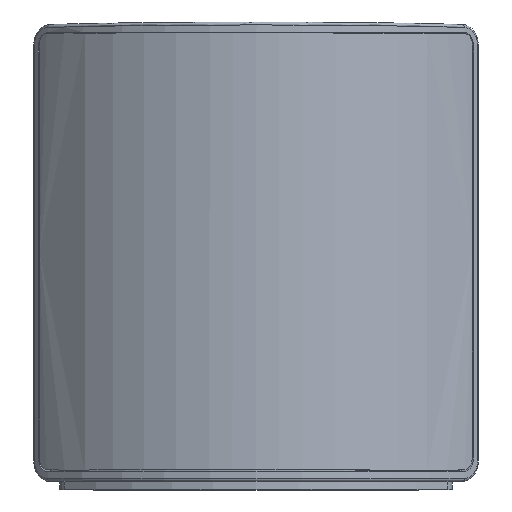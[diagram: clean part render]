
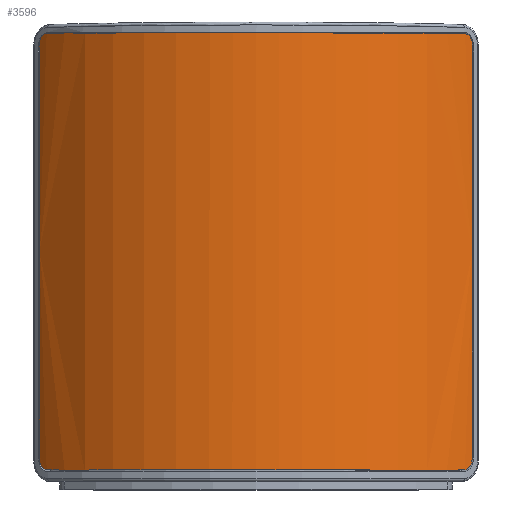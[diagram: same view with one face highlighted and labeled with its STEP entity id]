
A CAD part, top view. The second image highlights one B-rep face of the part: STEP entity #3596.
In plain terms, the highlighted cylindrical face has radius 48.3 mm (diameter 96.6 mm), a partial arc.
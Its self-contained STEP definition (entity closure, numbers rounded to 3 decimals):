
#1750=B_SPLINE_CURVE_WITH_KNOTS('',3,(#49874,#49875,#49876,#49877,#49878,
#49879,#49880,#49881,#49882,#49883,#49884,#49885,#49886,#49887,#49888,#49889,
#49890,#49891,#49892,#49893,#49894,#49895),.UNSPECIFIED.,.F.,.F.,(4,2,2,
2,2,2,2,2,2,2,4),(0.,0.25,0.375,0.438,
0.453,0.469,0.484,0.5,
0.625,0.75,1.),.UNSPECIFIED.);
#1751=B_SPLINE_CURVE_WITH_KNOTS('',3,(#49898,#49899,#49900,#49901,#49902,
#49903,#49904,#49905,#49906,#49907,#49908,#49909,#49910,#49911,#49912,#49913,
#49914,#49915,#49916,#49917,#49918,#49919),.UNSPECIFIED.,.F.,.F.,(4,2,2,
2,2,2,2,2,2,2,4),(0.,0.25,0.375,0.437,0.453,
0.469,0.484,0.5,0.625,
0.75,1.),.UNSPECIFIED.);
#1752=B_SPLINE_CURVE_WITH_KNOTS('',3,(#49921,#49922,#49923,#49924,#49925,
#49926,#49927,#49928,#49929,#49930,#49931,#49932,#49933,#49934,#49935,#49936,
#49937,#49938,#49939,#49940,#49941,#49942),.UNSPECIFIED.,.F.,.F.,(4,2,2,
2,2,2,2,2,2,2,4),(0.,0.25,0.375,0.438,0.453,0.469,0.484,
0.5,0.625,0.75,1.),.UNSPECIFIED.);
#1753=B_SPLINE_CURVE_WITH_KNOTS('',3,(#49944,#49945,#49946,#49947,#49948,
#49949,#49950,#49951,#49952,#49953,#49954,#49955,#49956,#49957,#49958,#49959,
#49960,#49961,#49962,#49963,#49964,#49965),.UNSPECIFIED.,.F.,.F.,(4,2,2,
2,2,2,2,2,2,2,4),(0.,0.25,0.375,0.438,
0.453,0.469,0.484,0.5,
0.625,0.75,1.),.UNSPECIFIED.);
#2111=CYLINDRICAL_SURFACE('',#16534,48.3);
#3596=ADVANCED_FACE('',(#4615),#2111,.T.);
#4615=FACE_OUTER_BOUND('',#5509,.T.);
#5509=EDGE_LOOP('',(#9516,#9517,#9518,#9519));
#9516=ORIENTED_EDGE('',*,*,#14182,.T.);
#9517=ORIENTED_EDGE('',*,*,#14183,.F.);
#9518=ORIENTED_EDGE('',*,*,#14184,.T.);
#9519=ORIENTED_EDGE('',*,*,#14185,.F.);
#11954=VERTEX_POINT('',#49896);
#11955=VERTEX_POINT('',#49897);
#11956=VERTEX_POINT('',#49920);
#11957=VERTEX_POINT('',#49943);
#14182=EDGE_CURVE('',#11954,#11955,#1750,.T.);
#14183=EDGE_CURVE('',#11956,#11955,#1751,.T.);
#14184=EDGE_CURVE('',#11956,#11957,#1752,.T.);
#14185=EDGE_CURVE('',#11954,#11957,#1753,.T.);
#16534=AXIS2_PLACEMENT_3D('',#49966,#18488,#18489);
#18488=DIRECTION('',(0.,-1.,0.));
#18489=DIRECTION('',(1.,0.,0.));
#49874=CARTESIAN_POINT('',(-36.457,-8.937,5.419));
#49875=CARTESIAN_POINT('',(-36.453,-15.385,5.424));
#49876=CARTESIAN_POINT('',(-36.453,-21.833,5.423));
#49877=CARTESIAN_POINT('',(-36.452,-31.506,5.425));
#49878=CARTESIAN_POINT('',(-36.452,-34.73,5.424));
#49879=CARTESIAN_POINT('',(-36.45,-39.566,5.428));
#49880=CARTESIAN_POINT('',(-36.462,-41.179,5.413));
#49881=CARTESIAN_POINT('',(-36.445,-43.193,5.433));
#49882=CARTESIAN_POINT('',(-36.444,-43.6,5.434));
#49883=CARTESIAN_POINT('',(-36.354,-44.39,5.536));
#49884=CARTESIAN_POINT('',(-36.229,-44.766,5.681));
#49885=CARTESIAN_POINT('',(-35.852,-45.339,6.103));
#49886=CARTESIAN_POINT('',(-35.602,-45.53,6.378));
#49887=CARTESIAN_POINT('',(-35.057,-45.671,6.962));
#49888=CARTESIAN_POINT('',(-34.779,-45.665,7.252));
#49889=CARTESIAN_POINT('',(-32.249,-45.724,9.83));
#49890=CARTESIAN_POINT('',(-29.767,-45.677,11.899));
#49891=CARTESIAN_POINT('',(-24.463,-45.679,15.493));
#49892=CARTESIAN_POINT('',(-21.618,-45.679,17.03));
#49893=CARTESIAN_POINT('',(-12.829,-45.678,20.712));
#49894=CARTESIAN_POINT('',(-6.471,-45.684,22.007));
#49895=CARTESIAN_POINT('',(-0.044,-45.681,22.009));
#49896=CARTESIAN_POINT('',(-36.457,-8.937,5.419));
#49897=CARTESIAN_POINT('',(-0.044,-45.681,22.009));
#49898=CARTESIAN_POINT('',(36.402,-8.959,5.427));
#49899=CARTESIAN_POINT('',(36.396,-15.409,5.434));
#49900=CARTESIAN_POINT('',(36.395,-21.859,5.435));
#49901=CARTESIAN_POINT('',(36.391,-31.535,5.44));
#49902=CARTESIAN_POINT('',(36.391,-34.76,5.441));
#49903=CARTESIAN_POINT('',(36.386,-39.597,5.445));
#49904=CARTESIAN_POINT('',(36.399,-41.21,5.431));
#49905=CARTESIAN_POINT('',(36.381,-43.225,5.452));
#49906=CARTESIAN_POINT('',(36.38,-43.632,5.453));
#49907=CARTESIAN_POINT('',(36.288,-44.421,5.558));
#49908=CARTESIAN_POINT('',(36.16,-44.797,5.704));
#49909=CARTESIAN_POINT('',(35.781,-45.367,6.128));
#49910=CARTESIAN_POINT('',(35.53,-45.555,6.404));
#49911=CARTESIAN_POINT('',(34.985,-45.693,6.988));
#49912=CARTESIAN_POINT('',(34.706,-45.687,7.278));
#49913=CARTESIAN_POINT('',(32.174,-45.743,9.855));
#49914=CARTESIAN_POINT('',(29.69,-45.696,11.922));
#49915=CARTESIAN_POINT('',(24.383,-45.694,15.512));
#49916=CARTESIAN_POINT('',(21.537,-45.693,17.046));
#49917=CARTESIAN_POINT('',(12.746,-45.686,20.722));
#49918=CARTESIAN_POINT('',(6.385,-45.688,22.012));
#49919=CARTESIAN_POINT('',(-0.044,-45.681,22.009));
#49920=CARTESIAN_POINT('',(36.402,-8.959,5.427));
#49921=CARTESIAN_POINT('',(36.402,-8.959,5.427));
#49922=CARTESIAN_POINT('',(36.403,-2.507,5.427));
#49923=CARTESIAN_POINT('',(36.408,3.946,5.421));
#49924=CARTESIAN_POINT('',(36.413,13.624,5.415));
#49925=CARTESIAN_POINT('',(36.416,16.851,5.411));
#49926=CARTESIAN_POINT('',(36.417,21.69,5.41));
#49927=CARTESIAN_POINT('',(36.431,23.303,5.394));
#49928=CARTESIAN_POINT('',(36.415,25.319,5.413));
#49929=CARTESIAN_POINT('',(36.414,25.727,5.414));
#49930=CARTESIAN_POINT('',(36.32,26.516,5.521));
#49931=CARTESIAN_POINT('',(36.191,26.89,5.669));
#49932=CARTESIAN_POINT('',(35.81,27.457,6.096));
#49933=CARTESIAN_POINT('',(35.558,27.643,6.374));
#49934=CARTESIAN_POINT('',(35.013,27.777,6.958));
#49935=CARTESIAN_POINT('',(34.735,27.773,7.249));
#49936=CARTESIAN_POINT('',(32.203,27.833,9.829));
#49937=CARTESIAN_POINT('',(29.72,27.791,11.899));
#49938=CARTESIAN_POINT('',(24.413,27.797,15.494));
#49939=CARTESIAN_POINT('',(21.566,27.8,17.032));
#49940=CARTESIAN_POINT('',(12.774,27.804,20.715));
#49941=CARTESIAN_POINT('',(6.411,27.813,22.009));
#49942=CARTESIAN_POINT('',(-0.021,27.809,22.009));
#49943=CARTESIAN_POINT('',(-0.021,27.809,22.009));
#49944=CARTESIAN_POINT('',(-36.457,-8.937,5.419));
#49945=CARTESIAN_POINT('',(-36.456,-2.485,5.42));
#49946=CARTESIAN_POINT('',(-36.459,3.968,5.416));
#49947=CARTESIAN_POINT('',(-36.462,13.646,5.413));
#49948=CARTESIAN_POINT('',(-36.464,16.872,5.411));
#49949=CARTESIAN_POINT('',(-36.463,21.711,5.412));
#49950=CARTESIAN_POINT('',(-36.478,23.324,5.395));
#49951=CARTESIAN_POINT('',(-36.46,25.34,5.415));
#49952=CARTESIAN_POINT('',(-36.46,25.747,5.416));
#49953=CARTESIAN_POINT('',(-36.366,26.537,5.523));
#49954=CARTESIAN_POINT('',(-36.237,26.911,5.671));
#49955=CARTESIAN_POINT('',(-35.856,27.478,6.098));
#49956=CARTESIAN_POINT('',(-35.604,27.665,6.375));
#49957=CARTESIAN_POINT('',(-35.059,27.799,6.96));
#49958=CARTESIAN_POINT('',(-34.781,27.794,7.25));
#49959=CARTESIAN_POINT('',(-32.249,27.853,9.831));
#49960=CARTESIAN_POINT('',(-29.765,27.809,11.901));
#49961=CARTESIAN_POINT('',(-24.458,27.813,15.496));
#49962=CARTESIAN_POINT('',(-21.61,27.814,17.034));
#49963=CARTESIAN_POINT('',(-12.815,27.812,20.716));
#49964=CARTESIAN_POINT('',(-6.453,27.817,22.01));
#49965=CARTESIAN_POINT('',(-0.021,27.809,22.009));
#49966=CARTESIAN_POINT('',(-0.024,-36.496,-26.291));
